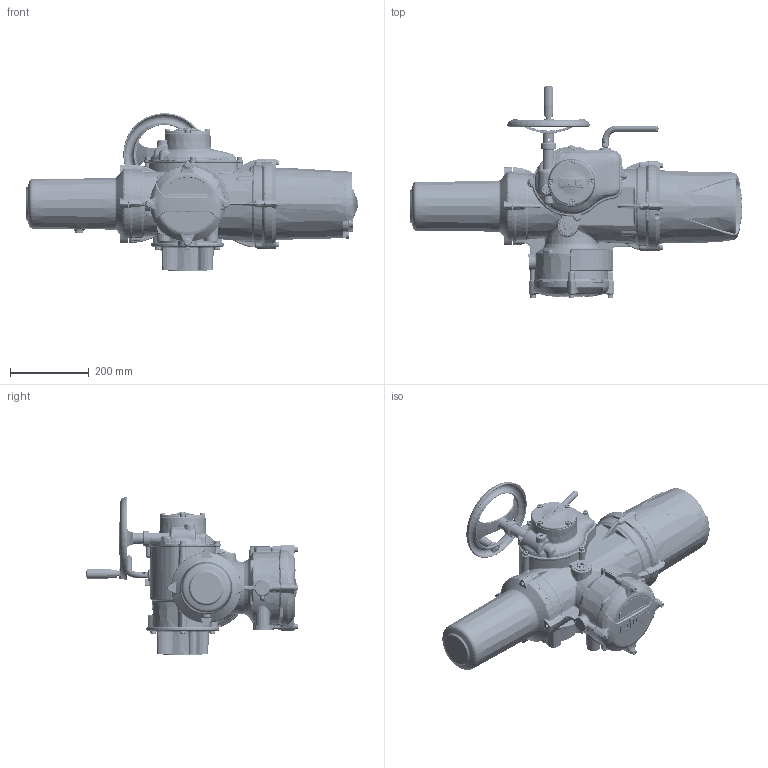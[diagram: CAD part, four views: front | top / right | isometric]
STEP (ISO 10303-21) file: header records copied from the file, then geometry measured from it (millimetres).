
FILE_DESCRIPTION(/* description */ ('Unknown'),/* implementation_level */ '2;1');
FILE_NAME(/* name */ 'IQ3H-2SP-SHW-AZ3-1',/* time_stamp */ '2021-03-29T10:42:23+01:00',/* author */ ('Unknown'),/* organization */ ('Unknown'),/* preprocessor_version */ 'ST-DEVELOPER v16.7',/* originating_system */ 'Solid Edge',/* authorisation */ 'Unknown');
FILE_SCHEMA (('AUTOMOTIVE_DESIGN {1 0 10303 214 3 1 1}'));
Length unit declared in the file: millimetre
Products named in the file (1): IQ3H-2SP-SHW-AZ3-1
Bounding box: 843.5 x 537.85 x 400.8 mm (x, y, z)
Volume: 646758.6 mm3; surface area: 1277053.7 mm2
Topology: 43 solids, 45 shells, 6207 faces, 15502 edges, 9203 vertices
Faces by surface type: bspline 2420, plane 1590, cylinder 807, torus 650, cone 542, sphere 198
Full cylindrical faces by diameter (mm): 1.152 x1, 3 x8, 4.76 x2, 4.78 x2, 4.917 x4, 6 x3, 6.2 x2, 6.45 x8, 6.47 x8, 6.5 x1, 7 x4, 7.6 x4, 8 x16, 8.1 x1, 8.2 x1, 8.5 x4, 9 x4, 9.7 x2, 10 x3, 11.78 x1, 12.1 x1, 13 x12, 13.25 x4, 14 x4, 14.376 x1, 15.5 x1, 15.84 x1, 16 x3, 16.75 x1, 17.02 x1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
Entity records: 273431 total; most frequent: CARTESIAN_POINT 105885, ORIENTED_EDGE 29182, DIRECTION 21233, EDGE_CURVE 14591, AXIS2_PLACEMENT_3D 9062, VERTEX_POINT 8950, FACE_BOUND 6797, EDGE_LOOP 6772
